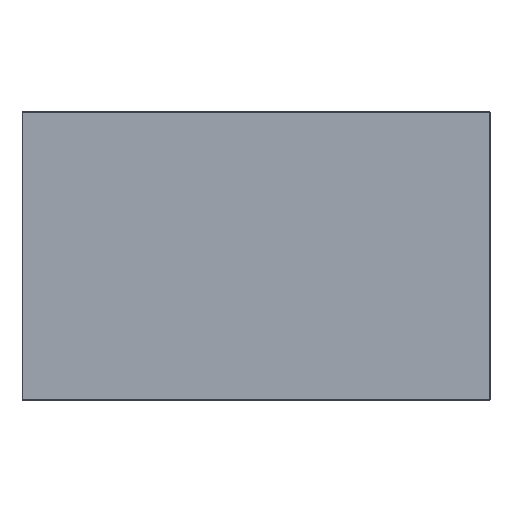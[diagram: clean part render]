
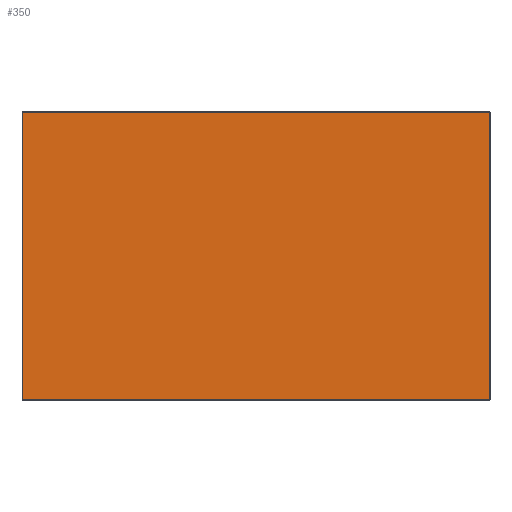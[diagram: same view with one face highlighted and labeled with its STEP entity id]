
A CAD part, top view. The second image highlights one B-rep face of the part: STEP entity #350.
In plain terms, the highlighted planar face has unit normal (0, 0, 1).
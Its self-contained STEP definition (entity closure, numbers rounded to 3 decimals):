
#90 = LINE ( 'NONE', #1364, #299 ) ;
#151 = LINE ( 'NONE', #1432, #871 ) ;
#202 = CARTESIAN_POINT ( 'NONE',  ( -649.5, 399.5, 4. ) ) ;
#250 = VERTEX_POINT ( 'NONE', #903 ) ;
#255 = DIRECTION ( 'NONE',  ( 0., -1., 0. ) ) ;
#276 = DIRECTION ( 'NONE',  ( 1., 0., 0. ) ) ;
#299 = VECTOR ( 'NONE', #255, 1000. ) ;
#350 = ADVANCED_FACE ( 'NONE', ( #1228 ), #1152, .F. ) ;
#359 = ORIENTED_EDGE ( 'NONE', *, *, #1229, .T. ) ;
#360 = DIRECTION ( 'NONE',  ( -1., 0., 0. ) ) ;
#408 = VECTOR ( 'NONE', #1082, 1000. ) ;
#447 = EDGE_CURVE ( 'NONE', #1101, #1068, #875, .T. ) ;
#519 = EDGE_LOOP ( 'NONE', ( #752, #359, #709, #1142 ) ) ;
#575 = VECTOR ( 'NONE', #276, 1000. ) ;
#654 = VERTEX_POINT ( 'NONE', #202 ) ;
#709 = ORIENTED_EDGE ( 'NONE', *, *, #828, .T. ) ;
#747 = LINE ( 'NONE', #964, #408 ) ;
#752 = ORIENTED_EDGE ( 'NONE', *, *, #970, .T. ) ;
#812 = CARTESIAN_POINT ( 'NONE',  ( 0., 0., 4. ) ) ;
#828 = EDGE_CURVE ( 'NONE', #654, #1101, #90, .T. ) ;
#863 = CARTESIAN_POINT ( 'NONE',  ( 0., -399.5, 4. ) ) ;
#871 = VECTOR ( 'NONE', #980, 1000. ) ;
#875 = LINE ( 'NONE', #863, #575 ) ;
#903 = CARTESIAN_POINT ( 'NONE',  ( 649.5, 399.5, 4. ) ) ;
#964 = CARTESIAN_POINT ( 'NONE',  ( 649.5, 0., 4. ) ) ;
#970 = EDGE_CURVE ( 'NONE', #1068, #250, #747, .T. ) ;
#980 = DIRECTION ( 'NONE',  ( -1., 0., 0. ) ) ;
#1068 = VERTEX_POINT ( 'NONE', #1422 ) ;
#1082 = DIRECTION ( 'NONE',  ( 0., 1., 0. ) ) ;
#1101 = VERTEX_POINT ( 'NONE', #1297 ) ;
#1142 = ORIENTED_EDGE ( 'NONE', *, *, #447, .T. ) ;
#1152 = PLANE ( 'NONE',  #1202 ) ;
#1202 = AXIS2_PLACEMENT_3D ( 'NONE', #812, #1381, #360 ) ;
#1228 = FACE_OUTER_BOUND ( 'NONE', #519, .T. ) ;
#1229 = EDGE_CURVE ( 'NONE', #250, #654, #151, .T. ) ;
#1297 = CARTESIAN_POINT ( 'NONE',  ( -649.5, -399.5, 4. ) ) ;
#1364 = CARTESIAN_POINT ( 'NONE',  ( -649.5, 0., 4. ) ) ;
#1381 = DIRECTION ( 'NONE',  ( 0., 0., -1. ) ) ;
#1422 = CARTESIAN_POINT ( 'NONE',  ( 649.5, -399.5, 4. ) ) ;
#1432 = CARTESIAN_POINT ( 'NONE',  ( 0., 399.5, 4. ) ) ;
